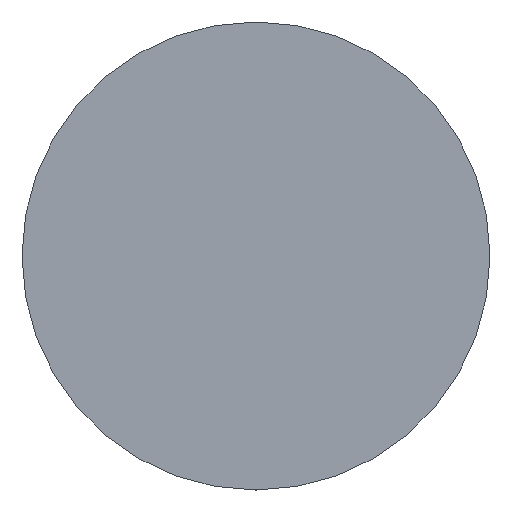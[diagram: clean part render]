
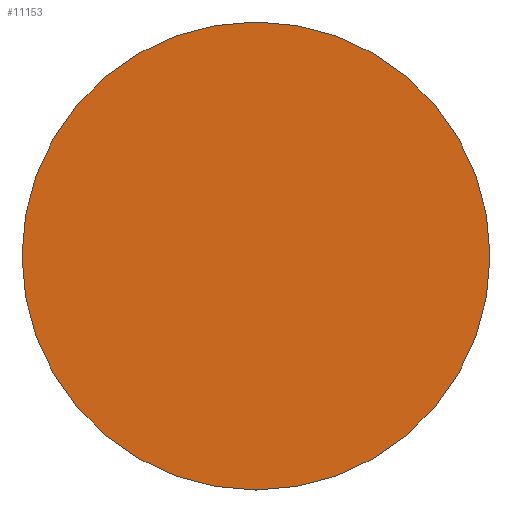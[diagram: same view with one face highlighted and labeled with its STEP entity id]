
A CAD part, top view. The second image highlights one B-rep face of the part: STEP entity #11153.
In plain terms, the highlighted planar face has unit normal (0, 0, 1).
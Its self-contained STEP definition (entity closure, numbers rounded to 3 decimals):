
#11078=CARTESIAN_POINT('',(0.,0.,20.));
#11079=DIRECTION('',(1.,0.,0.));
#11080=DIRECTION('',(0.,0.,1.));
#11081=AXIS2_PLACEMENT_3D('',#11078,#11080,#11079);
#11082=PLANE('',#11081);
#11083=CARTESIAN_POINT('',(-0.5,-350.,20.));
#11084=VERTEX_POINT('',#11083);
#11085=CARTESIAN_POINT('',(0.5,-350.,20.));
#11086=VERTEX_POINT('',#11085);
#11087=CARTESIAN_POINT('',(-0.5,-350.,20.));
#11088=DIRECTION('',(1.,0.,0.));
#11089=VECTOR('',#11088,1.);
#11090=LINE('',#11087,#11089);
#11091=EDGE_CURVE('',#11084,#11086,#11090,.T.);
#11092=ORIENTED_EDGE('E9',*,*,#11091,.T.);
#11093=CARTESIAN_POINT('',(350.,-0.5,20.));
#11094=VERTEX_POINT('',#11093);
#11095=CARTESIAN_POINT('',(0.5,-0.5,20.));
#11096=DIRECTION('',(0.,-1.,0.));
#11097=DIRECTION('',(0.,-0.,1.));
#11098=AXIS2_PLACEMENT_3D('',#11095,#11097,#11096);
#11099=CIRCLE('',#11098,349.5);
#11100=EDGE_CURVE('',#11086,#11094,#11099,.T.);
#11101=ORIENTED_EDGE('E10',*,*,#11100,.T.);
#11102=CARTESIAN_POINT('',(350.,0.5,20.));
#11103=VERTEX_POINT('',#11102);
#11104=CARTESIAN_POINT('',(350.,-0.5,20.));
#11105=DIRECTION('',(0.,1.,0.));
#11106=VECTOR('',#11105,1.);
#11107=LINE('',#11104,#11106);
#11108=EDGE_CURVE('',#11094,#11103,#11107,.T.);
#11109=ORIENTED_EDGE('E11',*,*,#11108,.T.);
#11110=CARTESIAN_POINT('',(0.5,350.,20.));
#11111=VERTEX_POINT('',#11110);
#11112=CARTESIAN_POINT('',(0.5,0.5,20.));
#11113=DIRECTION('',(1.,0.,0.));
#11114=DIRECTION('',(0.,0.,1.));
#11115=AXIS2_PLACEMENT_3D('',#11112,#11114,#11113);
#11116=CIRCLE('',#11115,349.5);
#11117=EDGE_CURVE('',#11103,#11111,#11116,.T.);
#11118=ORIENTED_EDGE('E12',*,*,#11117,.T.);
#11119=CARTESIAN_POINT('',(-0.5,350.,20.));
#11120=VERTEX_POINT('',#11119);
#11121=CARTESIAN_POINT('',(0.5,350.,20.));
#11122=DIRECTION('',(-1.,0.,0.));
#11123=VECTOR('',#11122,1.);
#11124=LINE('',#11121,#11123);
#11125=EDGE_CURVE('',#11111,#11120,#11124,.T.);
#11126=ORIENTED_EDGE('E13',*,*,#11125,.T.);
#11127=CARTESIAN_POINT('',(-350.,0.5,20.));
#11128=VERTEX_POINT('',#11127);
#11129=CARTESIAN_POINT('',(-0.5,0.5,20.));
#11130=DIRECTION('',(0.,1.,0.));
#11131=DIRECTION('',(0.,0.,1.));
#11132=AXIS2_PLACEMENT_3D('',#11129,#11131,#11130);
#11133=CIRCLE('',#11132,349.5);
#11134=EDGE_CURVE('',#11120,#11128,#11133,.T.);
#11135=ORIENTED_EDGE('E14',*,*,#11134,.T.);
#11136=CARTESIAN_POINT('',(-350.,-0.5,20.));
#11137=VERTEX_POINT('',#11136);
#11138=CARTESIAN_POINT('',(-350.,0.5,20.));
#11139=DIRECTION('',(0.,-1.,0.));
#11140=VECTOR('',#11139,1.);
#11141=LINE('',#11138,#11140);
#11142=EDGE_CURVE('',#11128,#11137,#11141,.T.);
#11143=ORIENTED_EDGE('E15',*,*,#11142,.T.);
#11144=CARTESIAN_POINT('',(-0.5,-0.5,20.));
#11145=DIRECTION('',(-1.,0.,0.));
#11146=DIRECTION('',(-0.,0.,1.));
#11147=AXIS2_PLACEMENT_3D('',#11144,#11146,#11145);
#11148=CIRCLE('',#11147,349.5);
#11149=EDGE_CURVE('',#11137,#11084,#11148,.T.);
#11150=ORIENTED_EDGE('E16',*,*,#11149,.T.);
#11151=EDGE_LOOP('',(#11092,#11101,#11109,#11118,#11126,#11135,#11143,#11150));
#11152=FACE_OUTER_BOUND('',#11151,.T.);
#11153=ADVANCED_FACE('F2',(#11152),#11082,.T.);
